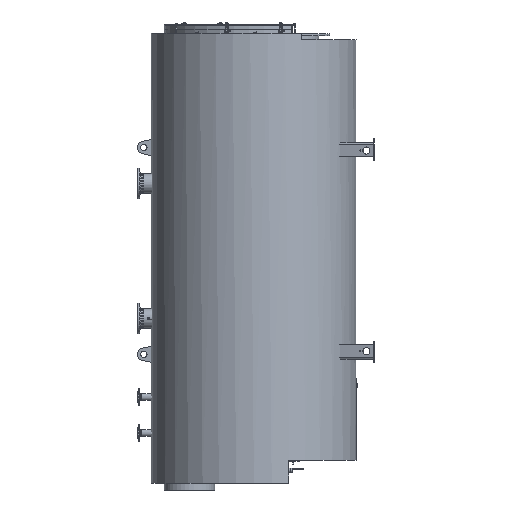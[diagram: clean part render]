
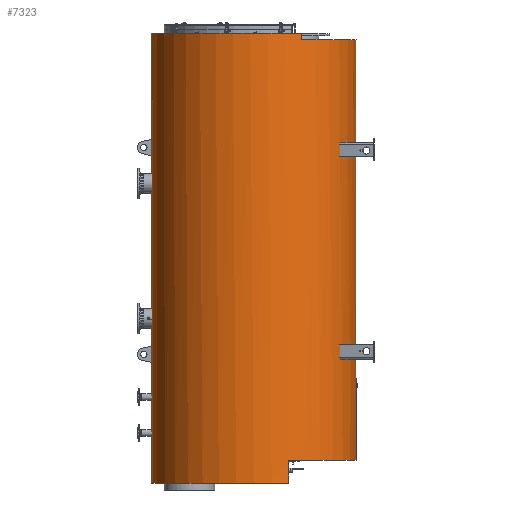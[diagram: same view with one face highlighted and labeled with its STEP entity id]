
A CAD part, left-side view. The second image highlights one B-rep face of the part: STEP entity #7323.
In plain terms, the highlighted cylindrical face has radius 1140 mm (diameter 2280 mm), a full revolution.
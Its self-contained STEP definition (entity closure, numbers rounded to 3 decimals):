
#5068=CYLINDRICAL_SURFACE('',#26825,1140.);
#5527=B_SPLINE_CURVE_WITH_KNOTS('',3,(#35994,#35995,#35996,#35997,#35998,
#35999,#36000,#36001,#36002,#36003,#36004,#36005,#36006,#36007,#36008,#36009,
#36010,#36011,#36012,#36013,#36014,#36015,#36016,#36017,#36018,#36019,#36020,
#36021,#36022,#36023,#36024,#36025,#36026,#36027,#36028,#36029,#36030,#36031,
#36032,#36033,#36034,#36035,#36036,#36037,#36038,#36039,#36040,#36041,#36042,
#36043,#36044,#36045,#36046,#36047,#36048,#36049,#36050,#36051,#36052,#36053,
#36054,#36055,#36056,#36057),.UNSPECIFIED.,.T.,.F.,(2,2,2,2,2,2,2,2,2,2,
2,2,2,2,2,2,2,2,2,2,2,2,2,2,2,2,2,2,2,2,2,2,2,2),(-0.063,0.,0.031,0.063,
0.094,0.125,0.156,0.188,0.219,0.25,0.281,0.313,0.344,0.375,
0.406,0.438,0.469,0.5,0.531,0.563,0.594,0.625,0.656,0.688,
0.719,0.75,0.781,0.813,0.844,0.875,0.906,0.938,1.,1.031),
 .UNSPECIFIED.);
#6023=FACE_BOUND('',#10236,.T.);
#6024=FACE_BOUND('',#10237,.T.);
#6025=FACE_BOUND('',#10238,.T.);
#7323=ADVANCED_FACE('',(#6023,#6024,#6025),#5068,.T.);
#10236=EDGE_LOOP('',(#14978,#14979,#14980,#14981));
#10237=EDGE_LOOP('',(#14982));
#10238=EDGE_LOOP('',(#14983,#14984,#14985,#14986));
#12354=LINE('',#35989,#13642);
#12355=LINE('',#35993,#13643);
#12356=LINE('',#36062,#13644);
#12357=LINE('',#36063,#13645);
#13642=VECTOR('',#29429,1.);
#13643=VECTOR('',#29432,1.);
#13644=VECTOR('',#29435,1.);
#13645=VECTOR('',#29436,1.);
#14978=ORIENTED_EDGE('',*,*,#22902,.T.);
#14979=ORIENTED_EDGE('',*,*,#22903,.T.);
#14980=ORIENTED_EDGE('',*,*,#22904,.F.);
#14981=ORIENTED_EDGE('',*,*,#22887,.F.);
#14982=ORIENTED_EDGE('',*,*,#22905,.F.);
#14983=ORIENTED_EDGE('',*,*,#22906,.T.);
#14984=ORIENTED_EDGE('',*,*,#22907,.F.);
#14985=ORIENTED_EDGE('',*,*,#22900,.T.);
#14986=ORIENTED_EDGE('',*,*,#22908,.T.);
#20735=VERTEX_POINT('',#35916);
#20736=VERTEX_POINT('',#35917);
#20741=VERTEX_POINT('',#35929);
#20748=VERTEX_POINT('',#35942);
#20750=VERTEX_POINT('',#35990);
#20751=VERTEX_POINT('',#35992);
#20752=VERTEX_POINT('',#36058);
#20753=VERTEX_POINT('',#36060);
#20754=VERTEX_POINT('',#36061);
#22887=EDGE_CURVE('',#20735,#20736,#25773,.T.);
#22900=EDGE_CURVE('',#20741,#20748,#25776,.T.);
#22902=EDGE_CURVE('',#20735,#20750,#12354,.T.);
#22903=EDGE_CURVE('',#20750,#20751,#25777,.T.);
#22904=EDGE_CURVE('',#20736,#20751,#12355,.T.);
#22905=EDGE_CURVE('',#20752,#20752,#5527,.T.);
#22906=EDGE_CURVE('',#20753,#20754,#25778,.T.);
#22907=EDGE_CURVE('',#20741,#20754,#12356,.T.);
#22908=EDGE_CURVE('',#20748,#20753,#12357,.T.);
#25773=CIRCLE('',#26817,1140.);
#25776=CIRCLE('',#26821,1140.);
#25777=CIRCLE('',#26823,1140.);
#25778=CIRCLE('',#26824,1140.);
#26817=AXIS2_PLACEMENT_3D('',#35915,#29407,#29408);
#26821=AXIS2_PLACEMENT_3D('',#35943,#29425,#29426);
#26823=AXIS2_PLACEMENT_3D('',#35991,#29430,#29431);
#26824=AXIS2_PLACEMENT_3D('',#36059,#29433,#29434);
#26825=AXIS2_PLACEMENT_3D('',#36064,#29437,#29438);
#29407=DIRECTION('',(0.,0.,1.));
#29408=DIRECTION('',(1.,0.,0.));
#29425=DIRECTION('',(0.,0.,1.));
#29426=DIRECTION('',(1.,0.,0.));
#29429=DIRECTION('',(0.,0.,-1.));
#29430=DIRECTION('',(0.,0.,-1.));
#29431=DIRECTION('',(1.,0.,0.));
#29432=DIRECTION('',(0.,0.,-1.));
#29433=DIRECTION('',(0.,0.,1.));
#29434=DIRECTION('',(1.,0.,0.));
#29435=DIRECTION('',(0.,0.,-1.));
#29436=DIRECTION('',(0.,0.,-1.));
#29437=DIRECTION('',(0.,0.,1.));
#29438=DIRECTION('',(1.,0.,0.));
#35915=CARTESIAN_POINT('',(0.,0.,170.));
#35916=CARTESIAN_POINT('',(1009.307,-530.,170.));
#35917=CARTESIAN_POINT('',(-1009.307,-530.,170.));
#35929=CARTESIAN_POINT('',(-1071.214,-390.,-4577.));
#35942=CARTESIAN_POINT('',(1071.214,-390.,-4577.));
#35943=CARTESIAN_POINT('',(0.,0.,-4577.));
#35989=CARTESIAN_POINT('',(1009.307,-530.,187.));
#35990=CARTESIAN_POINT('',(1009.307,-530.,100.));
#35991=CARTESIAN_POINT('',(0.,0.,100.));
#35992=CARTESIAN_POINT('',(-1009.307,-530.,100.));
#35993=CARTESIAN_POINT('',(-1009.307,-530.,187.));
#35994=CARTESIAN_POINT('',(-11.235,-1140.,-3832.));
#35995=CARTESIAN_POINT('',(5.618,-1140.,-3832.));
#35996=CARTESIAN_POINT('',(11.141,-1139.959,-3831.449));
#35997=CARTESIAN_POINT('',(22.007,-1139.801,-3829.288));
#35998=CARTESIAN_POINT('',(27.406,-1139.682,-3827.653));
#35999=CARTESIAN_POINT('',(37.699,-1139.388,-3823.386));
#36000=CARTESIAN_POINT('',(42.58,-1139.214,-3820.775));
#36001=CARTESIAN_POINT('',(51.818,-1138.831,-3814.607));
#36002=CARTESIAN_POINT('',(56.191,-1138.621,-3811.018));
#36003=CARTESIAN_POINT('',(64.029,-1138.207,-3803.179));
#36004=CARTESIAN_POINT('',(67.547,-1138.001,-3798.901));
#36005=CARTESIAN_POINT('',(73.761,-1137.616,-3789.61));
#36006=CARTESIAN_POINT('',(76.4,-1137.439,-3784.665));
#36007=CARTESIAN_POINT('',(80.64,-1137.146,-3774.438));
#36008=CARTESIAN_POINT('',(82.272,-1137.028,-3769.08));
#36009=CARTESIAN_POINT('',(84.457,-1136.868,-3758.108));
#36010=CARTESIAN_POINT('',(84.997,-1136.827,-3752.591));
#36011=CARTESIAN_POINT('',(85.003,-1136.827,-3741.5));
#36012=CARTESIAN_POINT('',(84.451,-1136.868,-3735.867));
#36013=CARTESIAN_POINT('',(82.282,-1137.027,-3724.965));
#36014=CARTESIAN_POINT('',(80.677,-1137.144,-3719.665));
#36015=CARTESIAN_POINT('',(76.421,-1137.438,-3709.372));
#36016=CARTESIAN_POINT('',(73.76,-1137.615,-3704.396));
#36017=CARTESIAN_POINT('',(67.609,-1137.998,-3695.187));
#36018=CARTESIAN_POINT('',(64.098,-1138.204,-3690.893));
#36019=CARTESIAN_POINT('',(56.167,-1138.622,-3682.955));
#36020=CARTESIAN_POINT('',(51.871,-1138.829,-3679.435));
#36021=CARTESIAN_POINT('',(42.669,-1139.21,-3673.278));
#36022=CARTESIAN_POINT('',(37.702,-1139.388,-3670.615));
#36023=CARTESIAN_POINT('',(27.405,-1139.682,-3666.346));
#36024=CARTESIAN_POINT('',(22.107,-1139.799,-3664.737));
#36025=CARTESIAN_POINT('',(11.213,-1139.958,-3662.56));
#36026=CARTESIAN_POINT('',(5.579,-1140.,-3662.002));
#36027=CARTESIAN_POINT('',(-5.517,-1140.,-3661.998));
#36028=CARTESIAN_POINT('',(-11.033,-1139.96,-3662.534));
#36029=CARTESIAN_POINT('',(-21.996,-1139.801,-3664.705));
#36030=CARTESIAN_POINT('',(-27.367,-1139.683,-3666.336));
#36031=CARTESIAN_POINT('',(-37.599,-1139.391,-3670.567));
#36032=CARTESIAN_POINT('',(-42.538,-1139.216,-3673.197));
#36033=CARTESIAN_POINT('',(-51.842,-1138.83,-3679.408));
#36034=CARTESIAN_POINT('',(-56.124,-1138.624,-3682.923));
#36035=CARTESIAN_POINT('',(-63.968,-1138.211,-3690.752));
#36036=CARTESIAN_POINT('',(-67.56,-1138.001,-3695.12));
#36037=CARTESIAN_POINT('',(-73.739,-1137.617,-3704.357));
#36038=CARTESIAN_POINT('',(-76.353,-1137.442,-3709.235));
#36039=CARTESIAN_POINT('',(-80.627,-1137.147,-3719.516));
#36040=CARTESIAN_POINT('',(-82.269,-1137.028,-3724.92));
#36041=CARTESIAN_POINT('',(-84.439,-1136.869,-3735.786));
#36042=CARTESIAN_POINT('',(-84.994,-1136.827,-3741.306));
#36043=CARTESIAN_POINT('',(-85.005,-1136.826,-3752.527));
#36044=CARTESIAN_POINT('',(-84.458,-1136.868,-3758.067));
#36045=CARTESIAN_POINT('',(-82.308,-1137.025,-3768.933));
#36046=CARTESIAN_POINT('',(-80.68,-1137.143,-3774.327));
#36047=CARTESIAN_POINT('',(-76.419,-1137.438,-3784.632));
#36048=CARTESIAN_POINT('',(-73.812,-1137.612,-3789.516));
#36049=CARTESIAN_POINT('',(-67.655,-1137.995,-3798.755));
#36050=CARTESIAN_POINT('',(-64.07,-1138.205,-3803.132));
#36051=CARTESIAN_POINT('',(-56.234,-1138.619,-3810.981));
#36052=CARTESIAN_POINT('',(-51.96,-1138.825,-3814.501));
#36053=CARTESIAN_POINT('',(-42.684,-1139.21,-3820.718));
#36054=CARTESIAN_POINT('',(-37.732,-1139.387,-3823.367));
#36055=CARTESIAN_POINT('',(-22.397,-1139.826,-3829.74));
#36056=CARTESIAN_POINT('',(-11.235,-1140.,-3832.));
#36057=CARTESIAN_POINT('',(5.618,-1140.,-3832.));
#36058=CARTESIAN_POINT('',(0.,-1140.,-3832.));
#36059=CARTESIAN_POINT('',(0.,0.,-4830.));
#36060=CARTESIAN_POINT('',(1071.214,-390.,-4830.));
#36061=CARTESIAN_POINT('',(-1071.214,-390.,-4830.));
#36062=CARTESIAN_POINT('',(-1071.214,-390.,-4577.));
#36063=CARTESIAN_POINT('',(1071.214,-390.,-4577.));
#36064=CARTESIAN_POINT('',(0.,0.,-4830.));
